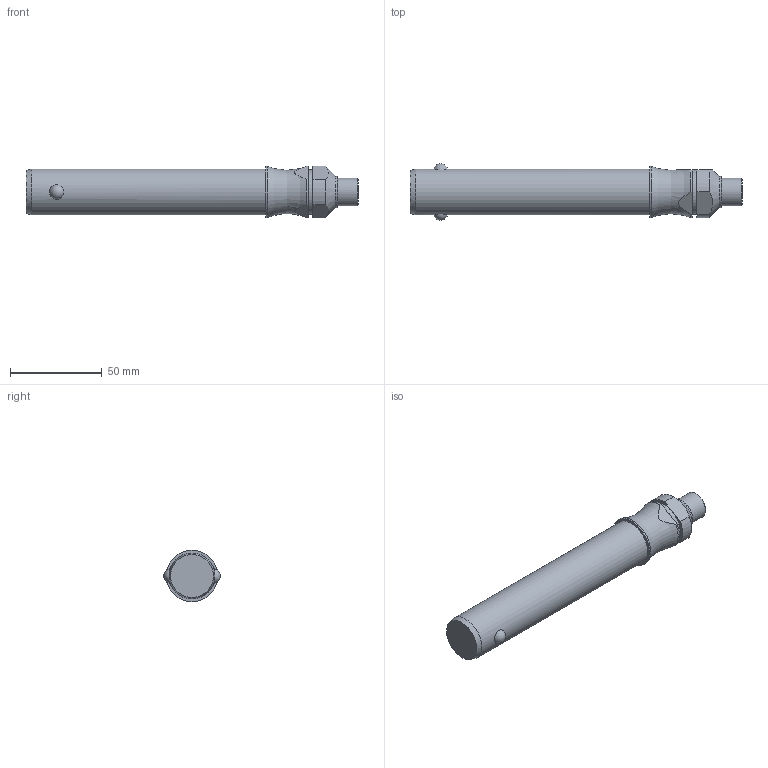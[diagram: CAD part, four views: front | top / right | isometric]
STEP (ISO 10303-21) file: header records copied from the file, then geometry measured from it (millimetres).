
FILE_DESCRIPTION( ( 'STEP AP203' ), '1' );
FILE_NAME( 'C:/Temp/Ganter_Step_05_03_2020/data/3_1/gn113_3/Stainless Steel-Ball lock pin GN 113.3-25-110 (deactivated).stp', '2020-03-12T08:19:12', ( 'License CC BY-ND 4.0' ), ( 'CADENAS' ), ' ', 'PARTsolutions', ' ' );
FILE_SCHEMA( ( 'CONFIG_CONTROL_DESIGN' ) );
Length unit declared in the file: millimetre
Products named in the file (1): _Stainless Steel-Ball lock pin GN 113.3-25-110 (deactivated)
Bounding box: 180.6 x 30.75 x 28 mm (x, y, z)
Volume: 84934.9 mm3; surface area: 15035.3 mm2
Topology: 1 solids, 1 shells, 29 faces, 62 edges, 40 vertices
Faces by surface type: plane 11, cylinder 11, cone 4, sphere 2, torus 1
Full cylindrical faces by diameter (mm): 15 x1, 17 x1, 24 x1, 25 x1, 28 x1
Entity records: 1006 total; most frequent: CARTESIAN_POINT 376, DIRECTION 126, ORIENTED_EDGE 100, AXIS2_PLACEMENT_3D 54, EDGE_CURVE 50, EDGE_LOOP 44, VERTEX_POINT 38, FACE_OUTER_BOUND 35
